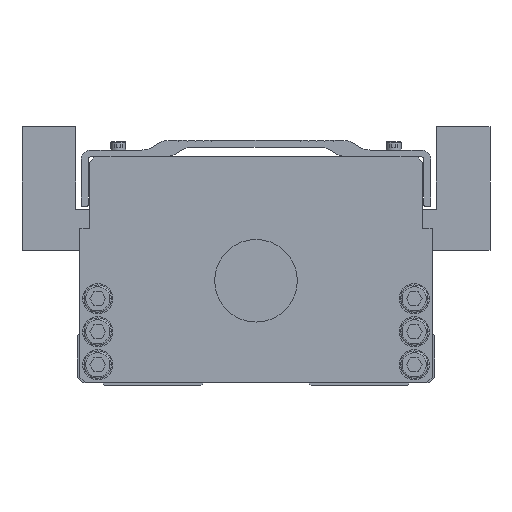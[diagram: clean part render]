
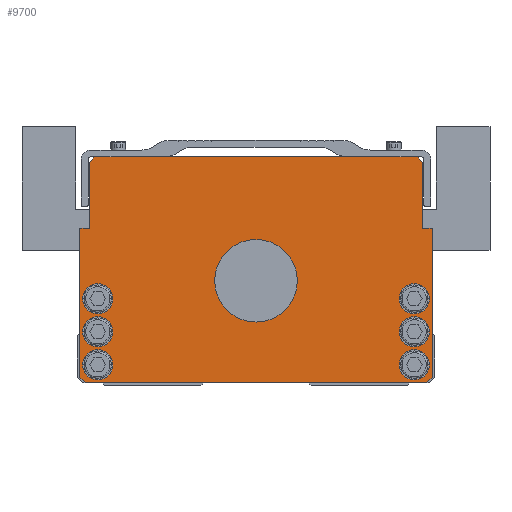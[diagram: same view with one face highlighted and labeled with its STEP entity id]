
A CAD part, front view. The second image highlights one B-rep face of the part: STEP entity #9700.
In plain terms, the highlighted planar face has unit normal (0, -1, 0).
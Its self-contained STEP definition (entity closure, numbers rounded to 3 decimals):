
#5058=EDGE_CURVE('',#12498,#8054,#14467,.T.);
#5100=EDGE_CURVE('',#8602,#13638,#14512,.T.);
#5494=VERTEX_POINT('',#14952);
#5802=EDGE_CURVE('',#6606,#12226,#15299,.T.);
#6284=EDGE_CURVE('',#9092,#12120,#15836,.T.);
#6606=VERTEX_POINT('',#16194);
#6698=EDGE_CURVE('',#10216,#12038,#16300,.T.);
#6886=VERTEX_POINT('',#16518);
#6958=VERTEX_POINT('',#16598);
#6980=VERTEX_POINT('',#16624);
#7256=VERTEX_POINT('',#16938);
#7584=EDGE_CURVE('',#13014,#5494,#17307,.T.);
#7590=VERTEX_POINT('',#17314);
#7800=VERTEX_POINT('',#17544);
#7954=VERTEX_POINT('',#17712);
#8054=VERTEX_POINT('',#17821);
#8150=EDGE_CURVE('',#7590,#8302,#17924,.T.);
#8302=VERTEX_POINT('',#18094);
#8458=EDGE_CURVE('',#12120,#9092,#18271,.T.);
#8504=EDGE_CURVE('',#9232,#9166,#18321,.T.);
#8538=EDGE_CURVE('',#6958,#6606,#18358,.T.);
#8602=VERTEX_POINT('',#18431);
#8694=EDGE_CURVE('',#12038,#6980,#18534,.T.);
#8812=EDGE_CURVE('',#13638,#8602,#18663,.T.);
#8856=EDGE_CURVE('',#9972,#11080,#18714,.T.);
#9092=VERTEX_POINT('',#18981);
#9166=VERTEX_POINT('',#19064);
#9232=VERTEX_POINT('',#19136);
#9700=ADVANCED_FACE('',(#19671,#19672,#19673,#19674,#19675,#19676,#19677,#19678),#19679,.T.);
#9760=EDGE_CURVE('',#6886,#7800,#19745,.T.);
#9972=VERTEX_POINT('',#19982);
#10064=EDGE_CURVE('',#11080,#9972,#20084,.T.);
#10216=VERTEX_POINT('',#20249);
#10396=EDGE_CURVE('',#12226,#7954,#20438,.T.);
#10736=EDGE_CURVE('',#12792,#7256,#20823,.T.);
#10816=EDGE_CURVE('',#9166,#9232,#20910,.T.);
#11074=EDGE_CURVE('',#8054,#7590,#21196,.T.);
#11080=VERTEX_POINT('',#21202);
#11296=EDGE_CURVE('',#7800,#14014,#21447,.T.);
#11344=EDGE_CURVE('',#5494,#13014,#21496,.T.);
#11604=VERTEX_POINT('',#21791);
#11974=EDGE_CURVE('',#6980,#12498,#22196,.T.);
#12038=VERTEX_POINT('',#22267);
#12120=VERTEX_POINT('',#22358);
#12226=VERTEX_POINT('',#22473);
#12238=VERTEX_POINT('',#22485);
#12498=VERTEX_POINT('',#22770);
#12680=EDGE_CURVE('',#7256,#12792,#22970,.T.);
#12684=EDGE_CURVE('',#7954,#10216,#22975,.T.);
#12792=VERTEX_POINT('',#23097);
#13002=EDGE_CURVE('',#12238,#11604,#23324,.T.);
#13014=VERTEX_POINT('',#23337);
#13638=VERTEX_POINT('',#24021);
#13776=EDGE_CURVE('',#14014,#6958,#24174,.T.);
#13880=EDGE_CURVE('',#11604,#12238,#24296,.T.);
#14014=VERTEX_POINT('',#24440);
#14042=EDGE_CURVE('',#8302,#6886,#24471,.T.);
#14467=LINE('',#25048,#25049);
#14512=CIRCLE('',#25116,15.0);
#14952=CARTESIAN_POINT('',(-52.0,0.0,31.5));
#15299=LINE('',#26180,#26181);
#15836=CIRCLE('',#26933,5.5);
#16194=CARTESIAN_POINT('',(60.5,0.0,57.0));
#16300=LINE('',#27609,#27610);
#16518=CARTESIAN_POINT('',(-33.25,0.0,83.0));
#16598=CARTESIAN_POINT('',(60.5,0.0,81.0));
#16624=CARTESIAN_POINT('',(-64.0,0.0,3.0));
#16938=CARTESIAN_POINT('',(52.0,0.0,31.5));
#17307=CIRCLE('',#28950,5.5);
#17314=CARTESIAN_POINT('',(-60.5,0.0,81.0));
#17544=CARTESIAN_POINT('',(33.25,0.0,83.0));
#17712=CARTESIAN_POINT('',(64.0,0.0,3.0));
#17821=CARTESIAN_POINT('',(-60.5,0.0,57.0));
#17924=LINE('',#29783,#29784);
#18094=CARTESIAN_POINT('',(-58.5,0.0,83.0));
#18271=CIRCLE('',#30267,5.5);
#18321=CIRCLE('',#30338,5.5);
#18358=LINE('',#30386,#30387);
#18431=CARTESIAN_POINT('',(-15.0,0.0,38.0));
#18534=LINE('',#30624,#30625);
#18663=CIRCLE('',#30805,15.0);
#18714=CIRCLE('',#30867,5.5);
#18981=CARTESIAN_POINT('',(-63.0,0.0,19.5));
#19064=CARTESIAN_POINT('',(-63.0,0.0,7.5));
#19136=CARTESIAN_POINT('',(-52.0,0.0,7.5));
#19671=FACE_BOUND('',#32131,.T.);
#19672=FACE_BOUND('',#32132,.T.);
#19673=FACE_BOUND('',#32133,.T.);
#19674=FACE_BOUND('',#32134,.T.);
#19675=FACE_BOUND('',#32135,.T.);
#19676=FACE_BOUND('',#32136,.T.);
#19677=FACE_BOUND('',#32137,.T.);
#19678=FACE_OUTER_BOUND('',#32138,.T.);
#19679=PLANE('',#32139);
#19745=LINE('',#32230,#32231);
#19982=CARTESIAN_POINT('',(52.0,0.0,19.5));
#20084=CIRCLE('',#32709,5.5);
#20249=CARTESIAN_POINT('',(62.0,0.0,1.0));
#20438=LINE('',#33219,#33220);
#20823=CIRCLE('',#33758,5.5);
#20910=CIRCLE('',#33871,5.5);
#21196=LINE('',#34254,#34255);
#21202=CARTESIAN_POINT('',(63.0,0.0,19.5));
#21447=LINE('',#34603,#34604);
#21496=CIRCLE('',#34680,5.5);
#21791=CARTESIAN_POINT('',(52.0,0.0,7.5));
#22196=LINE('',#35620,#35621);
#22267=CARTESIAN_POINT('',(-62.0,0.0,1.0));
#22358=CARTESIAN_POINT('',(-52.0,0.0,19.5));
#22473=CARTESIAN_POINT('',(64.0,0.0,57.0));
#22485=CARTESIAN_POINT('',(63.0,0.0,7.5));
#22770=CARTESIAN_POINT('',(-64.0,0.0,57.0));
#22970=CIRCLE('',#36701,5.5);
#22975=LINE('',#36707,#36708);
#23097=CARTESIAN_POINT('',(63.0,0.0,31.5));
#23324=CIRCLE('',#37218,5.5);
#23337=CARTESIAN_POINT('',(-63.0,0.0,31.5));
#24021=CARTESIAN_POINT('',(15.0,0.0,38.0));
#24174=LINE('',#38395,#38396);
#24296=CIRCLE('',#38560,5.5);
#24440=CARTESIAN_POINT('',(58.5,0.0,83.0));
#24471=LINE('',#38801,#38802);
#25048=CARTESIAN_POINT('',(-60.5,0.0,57.0));
#25049=VECTOR('',#39358,1.0);
#25116=AXIS2_PLACEMENT_3D('',#39396,#39397,#39398);
#26180=CARTESIAN_POINT('',(64.0,0.0,57.0));
#26181=VECTOR('',#40319,1.0);
#26933=AXIS2_PLACEMENT_3D('',#40977,#40978,#40979);
#27609=CARTESIAN_POINT('',(-62.0,0.0,1.0));
#27610=VECTOR('',#41537,1.0);
#28950=AXIS2_PLACEMENT_3D('',#42774,#42775,#42776);
#29783=CARTESIAN_POINT('',(-58.5,0.0,83.0));
#29784=VECTOR('',#43502,1.);
#30267=AXIS2_PLACEMENT_3D('',#43892,#43893,#43894);
#30338=AXIS2_PLACEMENT_3D('',#43948,#43949,#43950);
#30386=CARTESIAN_POINT('',(60.5,0.0,57.0));
#30387=VECTOR('',#43983,1.0);
#30624=CARTESIAN_POINT('',(-64.0,0.0,3.0));
#30625=VECTOR('',#44202,1.);
#30805=AXIS2_PLACEMENT_3D('',#44327,#44328,#44329);
#30867=AXIS2_PLACEMENT_3D('',#44401,#44402,#44403);
#32131=EDGE_LOOP('',(#45642,#45643));
#32132=EDGE_LOOP('',(#45644,#45645));
#32133=EDGE_LOOP('',(#45646,#45647));
#32134=EDGE_LOOP('',(#45648,#45649));
#32135=EDGE_LOOP('',(#45650,#45651));
#32136=EDGE_LOOP('',(#45652,#45653));
#32137=EDGE_LOOP('',(#45654,#45655));
#32138=EDGE_LOOP('',(#45656,#45657,#45658,#45659,#45660,#45661,#45662,#45663,#45664,#45665,#45666,#45667,#45668,#45669));
#32139=AXIS2_PLACEMENT_3D('',#45670,#45671,#45672);
#32230=CARTESIAN_POINT('',(58.5,0.0,83.0));
#32231=VECTOR('',#45738,1.0);
#32709=AXIS2_PLACEMENT_3D('',#46118,#46119,#46120);
#33219=CARTESIAN_POINT('',(64.0,0.0,3.0));
#33220=VECTOR('',#46454,1.0);
#33758=AXIS2_PLACEMENT_3D('',#46844,#46845,#46846);
#33871=AXIS2_PLACEMENT_3D('',#46926,#46927,#46928);
#34254=CARTESIAN_POINT('',(-60.5,0.0,81.0));
#34255=VECTOR('',#47242,1.0);
#34603=CARTESIAN_POINT('',(58.5,0.0,83.0));
#34604=VECTOR('',#47533,1.0);
#34680=AXIS2_PLACEMENT_3D('',#47560,#47561,#47562);
#35620=CARTESIAN_POINT('',(-64.0,0.0,57.0));
#35621=VECTOR('',#48380,1.0);
#36701=AXIS2_PLACEMENT_3D('',#49177,#49178,#49179);
#36707=CARTESIAN_POINT('',(62.0,0.0,1.0));
#36708=VECTOR('',#49188,1.);
#37218=AXIS2_PLACEMENT_3D('',#49571,#49572,#49573);
#38395=CARTESIAN_POINT('',(60.5,0.0,81.0));
#38396=VECTOR('',#50450,1.);
#38560=AXIS2_PLACEMENT_3D('',#50615,#50616,#50617);
#38801=CARTESIAN_POINT('',(58.5,0.0,83.0));
#38802=VECTOR('',#50789,1.0);
#39358=DIRECTION('',(1.0,0.0,0.0));
#39396=CARTESIAN_POINT('',(0.0,0.0,38.0));
#39397=DIRECTION('',(-0.0,1.0,0.0));
#39398=DIRECTION('',(1.0,0.0,0.0));
#40319=DIRECTION('',(1.0,0.0,0.0));
#40977=CARTESIAN_POINT('',(-57.5,0.0,19.5));
#40978=DIRECTION('',(-0.0,1.0,0.0));
#40979=DIRECTION('',(1.0,0.0,0.0));
#41537=DIRECTION('',(-1.0,0.0,-0.0));
#42774=CARTESIAN_POINT('',(-57.5,0.0,31.5));
#42775=DIRECTION('',(-0.0,1.0,0.0));
#42776=DIRECTION('',(1.0,0.0,0.0));
#43502=DIRECTION('',(0.707,0.0,0.707));
#43892=CARTESIAN_POINT('',(-57.5,0.0,19.5));
#43893=DIRECTION('',(-0.0,1.0,0.0));
#43894=DIRECTION('',(1.0,0.0,0.0));
#43948=CARTESIAN_POINT('',(-57.5,0.0,7.5));
#43949=DIRECTION('',(-0.0,1.0,0.0));
#43950=DIRECTION('',(1.0,0.0,0.0));
#43983=DIRECTION('',(-0.0,0.0,-1.0));
#44202=DIRECTION('',(-0.707,0.0,0.707));
#44327=CARTESIAN_POINT('',(0.0,0.0,38.0));
#44328=DIRECTION('',(-0.0,1.0,0.0));
#44329=DIRECTION('',(1.0,0.0,0.0));
#44401=CARTESIAN_POINT('',(57.5,0.0,19.5));
#44402=DIRECTION('',(-0.0,1.0,0.0));
#44403=DIRECTION('',(1.0,0.0,0.0));
#45642=ORIENTED_EDGE('',*,*,#8812,.T.);
#45643=ORIENTED_EDGE('',*,*,#5100,.T.);
#45644=ORIENTED_EDGE('',*,*,#10736,.T.);
#45645=ORIENTED_EDGE('',*,*,#12680,.T.);
#45646=ORIENTED_EDGE('',*,*,#10064,.T.);
#45647=ORIENTED_EDGE('',*,*,#8856,.T.);
#45648=ORIENTED_EDGE('',*,*,#13002,.T.);
#45649=ORIENTED_EDGE('',*,*,#13880,.T.);
#45650=ORIENTED_EDGE('',*,*,#11344,.T.);
#45651=ORIENTED_EDGE('',*,*,#7584,.T.);
#45652=ORIENTED_EDGE('',*,*,#8458,.T.);
#45653=ORIENTED_EDGE('',*,*,#6284,.T.);
#45654=ORIENTED_EDGE('',*,*,#8504,.T.);
#45655=ORIENTED_EDGE('',*,*,#10816,.T.);
#45656=ORIENTED_EDGE('',*,*,#8694,.F.);
#45657=ORIENTED_EDGE('',*,*,#6698,.F.);
#45658=ORIENTED_EDGE('',*,*,#12684,.F.);
#45659=ORIENTED_EDGE('',*,*,#10396,.F.);
#45660=ORIENTED_EDGE('',*,*,#5802,.F.);
#45661=ORIENTED_EDGE('',*,*,#8538,.F.);
#45662=ORIENTED_EDGE('',*,*,#13776,.F.);
#45663=ORIENTED_EDGE('',*,*,#11296,.F.);
#45664=ORIENTED_EDGE('',*,*,#9760,.F.);
#45665=ORIENTED_EDGE('',*,*,#14042,.F.);
#45666=ORIENTED_EDGE('',*,*,#8150,.F.);
#45667=ORIENTED_EDGE('',*,*,#11074,.F.);
#45668=ORIENTED_EDGE('',*,*,#5058,.F.);
#45669=ORIENTED_EDGE('',*,*,#11974,.F.);
#45670=CARTESIAN_POINT('',(0.,0.0,41.562));
#45671=DIRECTION('',(0.0,-1.0,0.0));
#45672=DIRECTION('',(1.0,0.0,0.0));
#45738=DIRECTION('',(1.0,0.0,0.0));
#46118=CARTESIAN_POINT('',(57.5,0.0,19.5));
#46119=DIRECTION('',(-0.0,1.0,0.0));
#46120=DIRECTION('',(1.0,0.0,0.0));
#46454=DIRECTION('',(-0.0,0.0,-1.0));
#46844=CARTESIAN_POINT('',(57.5,0.0,31.5));
#46845=DIRECTION('',(-0.0,1.0,0.0));
#46846=DIRECTION('',(1.0,0.0,0.0));
#46926=CARTESIAN_POINT('',(-57.5,0.0,7.5));
#46927=DIRECTION('',(-0.0,1.0,0.0));
#46928=DIRECTION('',(1.0,0.0,0.0));
#47242=DIRECTION('',(0.0,0.0,1.0));
#47533=DIRECTION('',(1.0,0.0,0.0));
#47560=CARTESIAN_POINT('',(-57.5,0.0,31.5));
#47561=DIRECTION('',(-0.0,1.0,0.0));
#47562=DIRECTION('',(1.0,0.0,0.0));
#48380=DIRECTION('',(0.0,0.0,1.0));
#49177=CARTESIAN_POINT('',(57.5,0.0,31.5));
#49178=DIRECTION('',(-0.0,1.0,0.0));
#49179=DIRECTION('',(1.0,0.0,0.0));
#49188=DIRECTION('',(-0.707,0.0,-0.707));
#49571=CARTESIAN_POINT('',(57.5,0.0,7.5));
#49572=DIRECTION('',(-0.0,1.0,0.0));
#49573=DIRECTION('',(1.0,0.0,0.0));
#50450=DIRECTION('',(0.707,0.0,-0.707));
#50615=CARTESIAN_POINT('',(57.5,0.0,7.5));
#50616=DIRECTION('',(-0.0,1.0,0.0));
#50617=DIRECTION('',(1.0,0.0,0.0));
#50789=DIRECTION('',(1.0,0.0,0.0));
